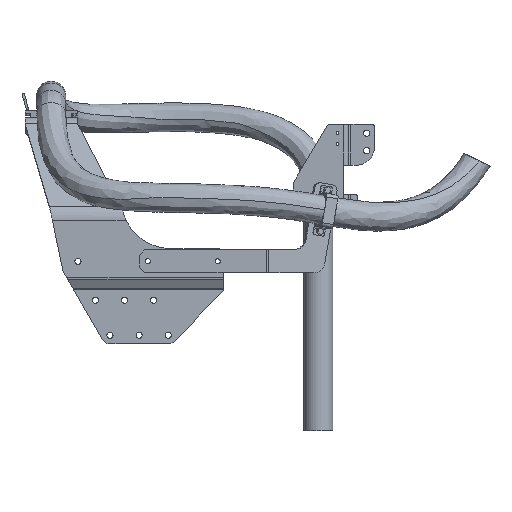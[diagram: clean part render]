
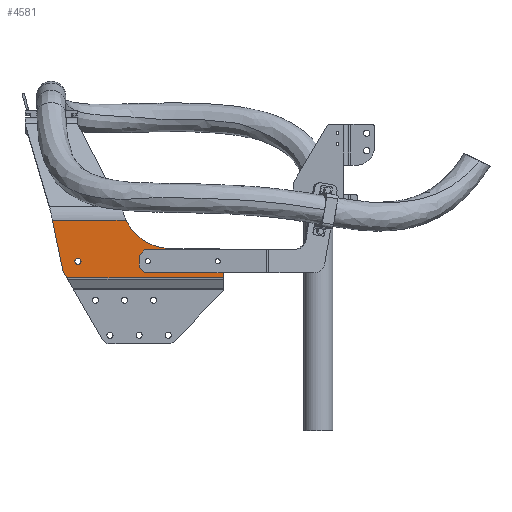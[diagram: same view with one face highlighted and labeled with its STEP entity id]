
A CAD part, front view. The second image highlights one B-rep face of the part: STEP entity #4581.
In plain terms, the highlighted planar face has unit normal (0, -1, 0).
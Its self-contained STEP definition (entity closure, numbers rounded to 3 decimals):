
#219 = VERTEX_POINT ( 'NONE', #14774 ) ;
#238 = CARTESIAN_POINT ( 'NONE',  ( -315.9, -470., 624.4 ) ) ;
#465 = VERTEX_POINT ( 'NONE', #4139 ) ;
#826 = DIRECTION ( 'NONE',  ( 1., 0., 0. ) ) ;
#850 = CARTESIAN_POINT ( 'NONE',  ( -155.9, -470., 600.817 ) ) ;
#904 = ORIENTED_EDGE ( 'NONE', *, *, #16209, .F. ) ;
#985 = EDGE_CURVE ( 'NONE', #1926, #219, #12867, .T. ) ;
#1064 = AXIS2_PLACEMENT_3D ( 'NONE', #11371, #11467, #17074 ) ;
#1095 = AXIS2_PLACEMENT_3D ( 'NONE', #4979, #10712, #17712 ) ;
#1274 = CARTESIAN_POINT ( 'NONE',  ( -417.566, -470., 617.869 ) ) ;
#1340 = CARTESIAN_POINT ( 'NONE',  ( -411.15, -470., 629.4 ) ) ;
#1679 = CIRCLE ( 'NONE', #1095, 85. ) ;
#1926 = VERTEX_POINT ( 'NONE', #5756 ) ;
#2028 = DIRECTION ( 'NONE',  ( 1., 0., 0. ) ) ;
#2697 = LINE ( 'NONE', #7043, #18259 ) ;
#2782 = CARTESIAN_POINT ( 'NONE',  ( -323.225, -470., 699.834 ) ) ;
#2819 = VERTEX_POINT ( 'NONE', #12481 ) ;
#3063 = EDGE_CURVE ( 'NONE', #2819, #7806, #1679, .T. ) ;
#3284 = CARTESIAN_POINT ( 'NONE',  ( -300.9, -470., 619.4 ) ) ;
#3656 = ORIENTED_EDGE ( 'NONE', *, *, #9504, .F. ) ;
#3703 = LINE ( 'NONE', #5204, #15387 ) ;
#3734 = EDGE_CURVE ( 'NONE', #11453, #17169, #14416, .T. ) ;
#4048 = EDGE_CURVE ( 'NONE', #7806, #465, #6794, .T. ) ;
#4118 = CARTESIAN_POINT ( 'NONE',  ( -295.9, -470., 614.4 ) ) ;
#4139 = CARTESIAN_POINT ( 'NONE',  ( -449.835, -470., 699.834 ) ) ;
#4567 = VERTEX_POINT ( 'NONE', #13008 ) ;
#4581 = ADVANCED_FACE ( 'NONE', ( #12731, #12921 ), #5836, .T. ) ;
#4626 = EDGE_CURVE ( 'NONE', #17169, #11453, #10516, .T. ) ;
#4657 = VERTEX_POINT ( 'NONE', #850 ) ;
#4741 = ORIENTED_EDGE ( 'NONE', *, *, #16501, .T. ) ;
#4883 = EDGE_CURVE ( 'NONE', #8168, #2819, #5440, .T. ) ;
#4979 = CARTESIAN_POINT ( 'NONE',  ( -246.493, -470., 736.4 ) ) ;
#5073 = ORIENTED_EDGE ( 'NONE', *, *, #985, .T. ) ;
#5126 = AXIS2_PLACEMENT_3D ( 'NONE', #14828, #16127, #826 ) ;
#5204 = CARTESIAN_POINT ( 'NONE',  ( -155.9, -470., 648.819 ) ) ;
#5402 = VECTOR ( 'NONE', #15839, 1000. ) ;
#5411 = DIRECTION ( 'NONE',  ( 0., -1., 0. ) ) ;
#5440 = LINE ( 'NONE', #8644, #17557 ) ;
#5658 = VECTOR ( 'NONE', #18034, 1000. ) ;
#5756 = CARTESIAN_POINT ( 'NONE',  ( -300.9, -470., 639.4 ) ) ;
#5836 = PLANE ( 'NONE',  #1064 ) ;
#5866 = DIRECTION ( 'NONE',  ( 0.707, 0., 0.707 ) ) ;
#5880 = DIRECTION ( 'NONE',  ( 1., 0., 0. ) ) ;
#5949 = VERTEX_POINT ( 'NONE', #11451 ) ;
#6133 = VERTEX_POINT ( 'NONE', #13161 ) ;
#6346 = CARTESIAN_POINT ( 'NONE',  ( -246.493, -470., 600.817 ) ) ;
#6364 = EDGE_CURVE ( 'NONE', #9643, #4567, #8556, .T. ) ;
#6398 = ORIENTED_EDGE ( 'NONE', *, *, #14148, .T. ) ;
#6415 = ORIENTED_EDGE ( 'NONE', *, *, #13585, .F. ) ;
#6695 = EDGE_LOOP ( 'NONE', ( #14827, #17506 ) ) ;
#6794 = LINE ( 'NONE', #15167, #9129 ) ;
#6817 = VERTEX_POINT ( 'NONE', #14326 ) ;
#7043 = CARTESIAN_POINT ( 'NONE',  ( -300.9, -470., 649.4 ) ) ;
#7667 = AXIS2_PLACEMENT_3D ( 'NONE', #18038, #5411, #12587 ) ;
#7806 = VERTEX_POINT ( 'NONE', #2782 ) ;
#7934 = DIRECTION ( 'NONE',  ( 0., -1., 0. ) ) ;
#7994 = LINE ( 'NONE', #16388, #5658 ) ;
#8168 = VERTEX_POINT ( 'NONE', #13170 ) ;
#8439 = AXIS2_PLACEMENT_3D ( 'NONE', #15966, #7934, #2028 ) ;
#8440 = ORIENTED_EDGE ( 'NONE', *, *, #4048, .T. ) ;
#8556 = LINE ( 'NONE', #12790, #15737 ) ;
#8567 = ORIENTED_EDGE ( 'NONE', *, *, #10588, .F. ) ;
#8644 = CARTESIAN_POINT ( 'NONE',  ( -246.493, -470., 651.4 ) ) ;
#8824 = EDGE_CURVE ( 'NONE', #9643, #13278, #10892, .T. ) ;
#9129 = VECTOR ( 'NONE', #15441, 1000. ) ;
#9203 = ORIENTED_EDGE ( 'NONE', *, *, #6364, .F. ) ;
#9239 = CARTESIAN_POINT ( 'NONE',  ( -405.9, -470., 487.4 ) ) ;
#9300 = EDGE_LOOP ( 'NONE', ( #9203, #10420, #3656, #5073, #8567, #6398, #16036, #17373, #8440, #13349, #16152, #904, #6415, #4741 ) ) ;
#9326 = LINE ( 'NONE', #9239, #15609 ) ;
#9504 = EDGE_CURVE ( 'NONE', #1926, #13278, #11308, .T. ) ;
#9643 = VERTEX_POINT ( 'NONE', #10288 ) ;
#10288 = CARTESIAN_POINT ( 'NONE',  ( -290.9, -470., 609.4 ) ) ;
#10420 = ORIENTED_EDGE ( 'NONE', *, *, #8824, .T. ) ;
#10516 = CIRCLE ( 'NONE', #8439, 5.25 ) ;
#10588 = EDGE_CURVE ( 'NONE', #6133, #219, #2697, .T. ) ;
#10712 = DIRECTION ( 'NONE',  ( 0., 1., 0. ) ) ;
#10780 = VECTOR ( 'NONE', #5866, 1000. ) ;
#10852 = EDGE_CURVE ( 'NONE', #465, #5949, #9326, .T. ) ;
#10892 = LINE ( 'NONE', #4118, #13798 ) ;
#10928 = CARTESIAN_POINT ( 'NONE',  ( -425.042, -470., 600.817 ) ) ;
#11308 = LINE ( 'NONE', #14330, #18207 ) ;
#11371 = CARTESIAN_POINT ( 'NONE',  ( -246.493, -470., 733.819 ) ) ;
#11451 = CARTESIAN_POINT ( 'NONE',  ( -432.255, -470., 614.831 ) ) ;
#11453 = VERTEX_POINT ( 'NONE', #1340 ) ;
#11467 = DIRECTION ( 'NONE',  ( 0., -1., 0. ) ) ;
#11527 = CARTESIAN_POINT ( 'NONE',  ( -400.65, -470., 629.4 ) ) ;
#12121 = AXIS2_PLACEMENT_3D ( 'NONE', #1274, #12164, #16408 ) ;
#12164 = DIRECTION ( 'NONE',  ( 0., -1., 0. ) ) ;
#12286 = DIRECTION ( 'NONE',  ( 0.203, 0., -0.979 ) ) ;
#12481 = CARTESIAN_POINT ( 'NONE',  ( -246.493, -470., 651.4 ) ) ;
#12587 = DIRECTION ( 'NONE',  ( 1., 0., 0. ) ) ;
#12731 = FACE_OUTER_BOUND ( 'NONE', #9300, .T. ) ;
#12790 = CARTESIAN_POINT ( 'NONE',  ( 17.6, -470., 609.4 ) ) ;
#12867 = LINE ( 'NONE', #238, #10780 ) ;
#12921 = FACE_BOUND ( 'NONE', #6695, .T. ) ;
#13008 = CARTESIAN_POINT ( 'NONE',  ( -155.9, -470., 609.4 ) ) ;
#13073 = CIRCLE ( 'NONE', #5126, 10. ) ;
#13161 = CARTESIAN_POINT ( 'NONE',  ( -159.9, -470., 649.4 ) ) ;
#13170 = CARTESIAN_POINT ( 'NONE',  ( -165.9, -470., 651.4 ) ) ;
#13230 = LINE ( 'NONE', #6346, #5402 ) ;
#13278 = VERTEX_POINT ( 'NONE', #3284 ) ;
#13349 = ORIENTED_EDGE ( 'NONE', *, *, #10852, .T. ) ;
#13585 = EDGE_CURVE ( 'NONE', #4657, #17691, #13230, .T. ) ;
#13682 = DIRECTION ( 'NONE',  ( 0., 0., 1. ) ) ;
#13798 = VECTOR ( 'NONE', #18072, 1000. ) ;
#14148 = EDGE_CURVE ( 'NONE', #6133, #8168, #13073, .T. ) ;
#14326 = CARTESIAN_POINT ( 'NONE',  ( -430.556, -470., 610.369 ) ) ;
#14330 = CARTESIAN_POINT ( 'NONE',  ( -300.9, -470., 609.4 ) ) ;
#14416 = CIRCLE ( 'NONE', #7667, 5.25 ) ;
#14774 = CARTESIAN_POINT ( 'NONE',  ( -290.9, -470., 649.4 ) ) ;
#14827 = ORIENTED_EDGE ( 'NONE', *, *, #4626, .F. ) ;
#14828 = CARTESIAN_POINT ( 'NONE',  ( -165.9, -470., 641.4 ) ) ;
#15167 = CARTESIAN_POINT ( 'NONE',  ( -246.493, -470., 699.834 ) ) ;
#15387 = VECTOR ( 'NONE', #13682, 1000. ) ;
#15441 = DIRECTION ( 'NONE',  ( -1., 0., 0. ) ) ;
#15609 = VECTOR ( 'NONE', #12286, 1000. ) ;
#15737 = VECTOR ( 'NONE', #5880, 1000. ) ;
#15839 = DIRECTION ( 'NONE',  ( -1., 0., 0. ) ) ;
#15903 = EDGE_CURVE ( 'NONE', #5949, #6817, #16247, .T. ) ;
#15966 = CARTESIAN_POINT ( 'NONE',  ( -405.9, -470., 629.4 ) ) ;
#16036 = ORIENTED_EDGE ( 'NONE', *, *, #4883, .T. ) ;
#16127 = DIRECTION ( 'NONE',  ( 0., -1., 0. ) ) ;
#16152 = ORIENTED_EDGE ( 'NONE', *, *, #15903, .T. ) ;
#16209 = EDGE_CURVE ( 'NONE', #17691, #6817, #7994, .T. ) ;
#16247 = CIRCLE ( 'NONE', #12121, 15. ) ;
#16388 = CARTESIAN_POINT ( 'NONE',  ( -437.996, -470., 623.254 ) ) ;
#16408 = DIRECTION ( 'NONE',  ( 1., 0., 0. ) ) ;
#16501 = EDGE_CURVE ( 'NONE', #4657, #4567, #3703, .T. ) ;
#16593 = DIRECTION ( 'NONE',  ( -1., 0., 0. ) ) ;
#16825 = DIRECTION ( 'NONE',  ( 0., 0., -1. ) ) ;
#16904 = DIRECTION ( 'NONE',  ( -1., 0., 0. ) ) ;
#17074 = DIRECTION ( 'NONE',  ( 1., 0., 0. ) ) ;
#17169 = VERTEX_POINT ( 'NONE', #11527 ) ;
#17373 = ORIENTED_EDGE ( 'NONE', *, *, #3063, .T. ) ;
#17506 = ORIENTED_EDGE ( 'NONE', *, *, #3734, .F. ) ;
#17557 = VECTOR ( 'NONE', #16593, 1000. ) ;
#17691 = VERTEX_POINT ( 'NONE', #10928 ) ;
#17712 = DIRECTION ( 'NONE',  ( 1., 0., 0. ) ) ;
#18034 = DIRECTION ( 'NONE',  ( -0.5, 0., 0.866 ) ) ;
#18038 = CARTESIAN_POINT ( 'NONE',  ( -405.9, -470., 629.4 ) ) ;
#18072 = DIRECTION ( 'NONE',  ( -0.707, 0., 0.707 ) ) ;
#18207 = VECTOR ( 'NONE', #16825, 1000. ) ;
#18259 = VECTOR ( 'NONE', #16904, 1000. ) ;
